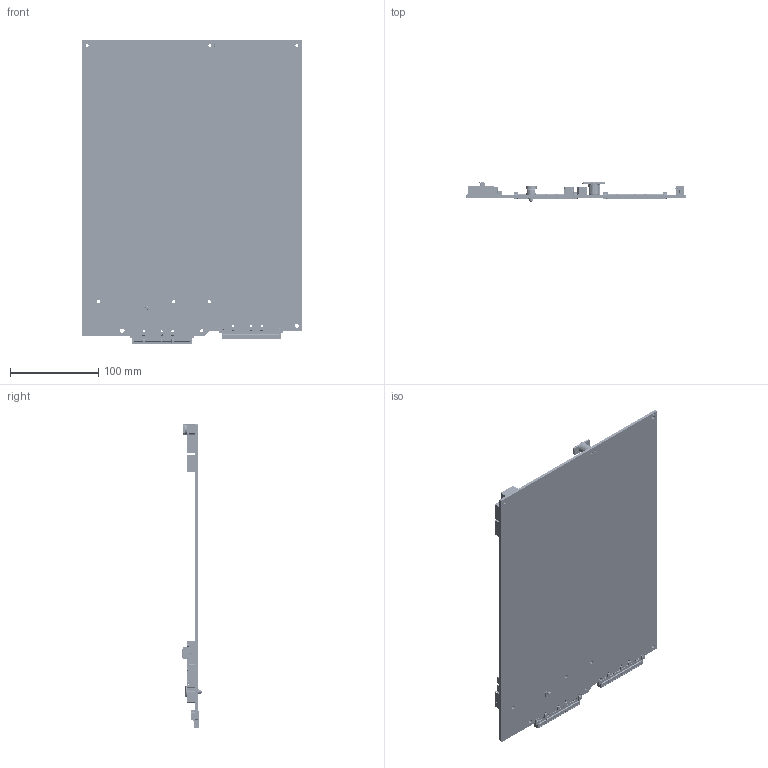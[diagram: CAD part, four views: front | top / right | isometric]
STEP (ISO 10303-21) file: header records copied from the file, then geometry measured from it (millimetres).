
FILE_DESCRIPTION((''),'2;1');
FILE_NAME('M-SDNO-PBA-ASSY-CLASS_B335_ASM','2024-06-03T13:24:37',('mmilobin'),('INTEL'),'CREO PARAMETRIC BY PTC INC, 2023294','CREO PARAMETRIC BY PTC INC, 2023294','');
FILE_SCHEMA(('AUTOMOTIVE_DESIGN { 1 0 10303 214 1 1 1 1 }'));
Products named in the file (27): M-SDNO-CLASS_B335-BOARD; MTG_DM8500N4500_8_AF160; MTG_DM8500N3700_8_AF21; MTG_SLOT_DM10000N4500_8_AF232; MTG_DM8500N3700_8_AF22; MTG_DM8500N3700_8_AF23; MTG_DM8500N3700_8_AF24; SCONN168_M31701001; SCONN84_APH-MCIO-2C-RA2; BOARD-LOCKING-MECHANISM-; BOARD-LOCKING-MECHANISM2; BOARD-LOCKING-MECHANISM3; BOARD-LOCKING-MECHANISM4; BOARD-LOCKING-MECHANISM_ASM; APH_SFF-1033_162P_4CP_VT; CONN-POWER-1158980_1; CONNECTOR-NEARSTACK-X4; CONNECTOR-NEARSTACK-X4_ASM; TK0_SHDR_SPV_2X10_1000_MA_VR; HSM103-CONN; H83816-005-CONN-2X9-SHOUDED; CONN4_E56240001A_ICL; MTG_SPOKE_N137; DC_MHS_HANDLE_DUMMY; MTG_SPOKE_N137_AF18; MTG_SPOKE_N137_AF19; M-SDNO-PBA-ASSY-CLASS_B335_ASM
Assembly tree (34 placements, depth 3):
  M-SDNO-PBA-ASSY-CLASS_B335_ASM
    M-SDNO-CLASS_B335-BOARD
    MTG_DM8500N4500_8_AF160
    MTG_DM8500N3700_8_AF21
    MTG_SLOT_DM10000N4500_8_AF232
    MTG_DM8500N3700_8_AF22
    MTG_DM8500N3700_8_AF23
    MTG_DM8500N3700_8_AF24
    SCONN168_M31701001  x2
    SCONN84_APH-MCIO-2C-RA2
    BOARD-LOCKING-MECHANISM_ASM
      BOARD-LOCKING-MECHANISM-
      BOARD-LOCKING-MECHANISM2
      BOARD-LOCKING-MECHANISM3
      BOARD-LOCKING-MECHANISM4
    APH_SFF-1033_162P_4CP_VT  x3
    CONN-POWER-1158980_1  x5
    CONNECTOR-NEARSTACK-X4_ASM
      CONNECTOR-NEARSTACK-X4
    TK0_SHDR_SPV_2X10_1000_MA_VR  x2
    HSM103-CONN
    H83816-005-CONN-2X9-SHOUDED
    CONN4_E56240001A_ICL
    MTG_SPOKE_N137
    DC_MHS_HANDLE_DUMMY
    MTG_SPOKE_N137_AF18
    MTG_SPOKE_N137_AF19
Bounding box: 250 x 21.56 x 344.52 mm (x, y, z)
Volume: 288129.8 mm3; surface area: 218623.1 mm2
Topology: 145 solids, 151 shells, 41850 faces, 118378 edges, 78564 vertices
Faces by surface type: plane 27222, cylinder 13470, bspline 975, cone 99, torus 68, sphere 16
Entity records: 621052 total; most frequent: CARTESIAN_POINT 127441, ORIENTED_EDGE 98988, DIRECTION 97501, EDGE_CURVE 49506, VECTOR 37393, LINE 37393, VERTEX_POINT 32640, AXIS2_PLACEMENT_3D 30010
